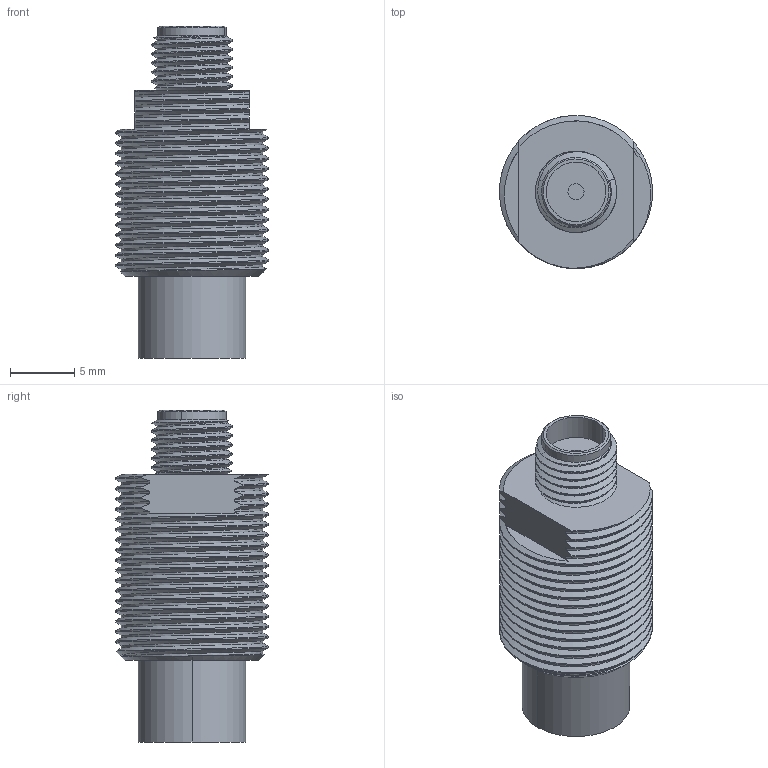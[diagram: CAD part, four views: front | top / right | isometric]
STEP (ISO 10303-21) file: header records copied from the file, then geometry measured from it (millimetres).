
FILE_DESCRIPTION (( 'STEP AP203' ), '1' );
FILE_NAME ('3U1.STEP', '2010-03-05T18:51:00', ( 'tom edwards' ), ( 'Tom J. Edwards' ), 'SwSTEP 2.0', 'SolidWorks 2008', '' );
FILE_SCHEMA (( 'CONFIG_CONTROL_DESIGN' ));
Length unit declared in the file: millimetre
Products named in the file (3): 3U1_Thread Runout; 3U1; 2S1_sma
Assembly tree (2 placements, depth 2):
  3U1
    3U1_Thread Runout
    2S1_sma
Bounding box: 11.91 x 11.9 x 25.83 mm (x, y, z)
Volume: 1977.2 mm3; surface area: 1511.7 mm2
Topology: 2 solids, 2 shells, 289 faces, 701 edges, 422 vertices
Faces by surface type: cylinder 113, plane 76, cone 73, bspline 27
Entity records: 42338 total; most frequent: CARTESIAN_POINT 36130, ORIENTED_EDGE 1402, DIRECTION 1073, EDGE_CURVE 701, AXIS2_PLACEMENT_3D 439, VERTEX_POINT 422, EDGE_LOOP 295, FACE_OUTER_BOUND 289
